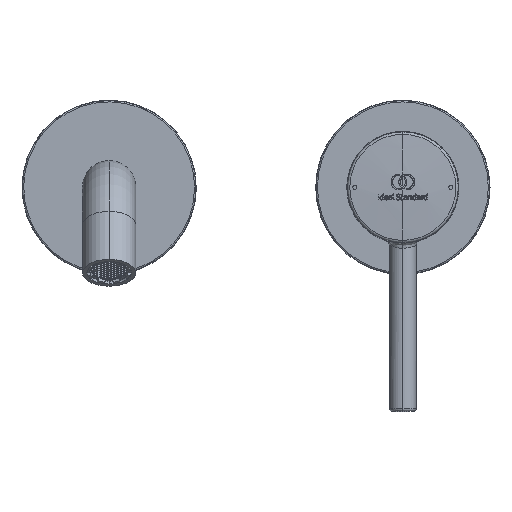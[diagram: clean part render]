
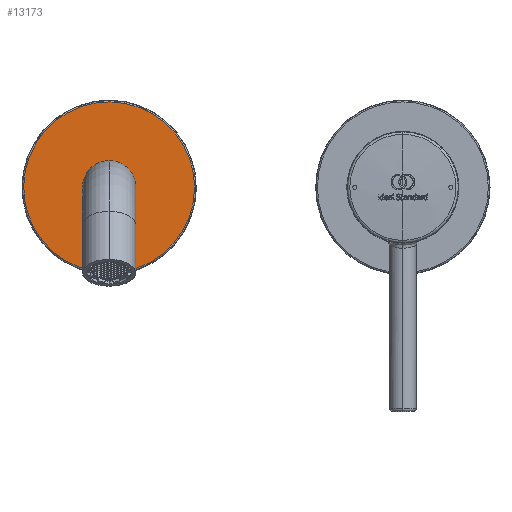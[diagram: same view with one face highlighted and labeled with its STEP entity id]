
A CAD part, front view. The second image highlights one B-rep face of the part: STEP entity #13173.
In plain terms, the highlighted planar face has unit normal (0, -1, 0).
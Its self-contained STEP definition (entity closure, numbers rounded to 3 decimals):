
#2023=CARTESIAN_POINT('',(-110.,-8.,0.));
#2024=DIRECTION('',(0.,-1.,0.));
#2025=DIRECTION('',(0.,0.,-1.));
#2026=AXIS2_PLACEMENT_3D('',#2023,#2024,#2025);
#3000=CARTESIAN_POINT('',(-110.,-8.,0.));
#3001=DIRECTION('',(0.,-1.,0.));
#3002=DIRECTION('',(0.,0.,1.));
#3003=AXIS2_PLACEMENT_3D('',#3000,#3001,#3002);
#3336=CARTESIAN_POINT('',(-110.,-8.,0.));
#3337=DIRECTION('',(0.,-1.,0.));
#3338=DIRECTION('',(0.009,0.,1.));
#3339=AXIS2_PLACEMENT_3D('',#3336,#3337,#3338);
#3341=CARTESIAN_POINT('',(-110.,-8.,0.));
#3342=DIRECTION('',(0.,-1.,0.));
#3343=DIRECTION('',(-0.009,0.,-1.));
#3344=AXIS2_PLACEMENT_3D('',#3341,#3342,#3343);
#9174=CARTESIAN_POINT('',(-109.716,-8.,32.007));
#9175=CARTESIAN_POINT('',(-110.284,-8.,-32.007));
#9176=VERTEX_POINT('',#9174);
#9177=VERTEX_POINT('',#9175);
#10099=CARTESIAN_POINT('',(-110.,-8.,-10.));
#10100=CARTESIAN_POINT('',(-110.,-8.,10.));
#10101=VERTEX_POINT('',#10099);
#10102=VERTEX_POINT('',#10100);
#13158=CARTESIAN_POINT('',(-110.,-8.,0.));
#13159=DIRECTION('',(0.,1.,0.));
#13160=DIRECTION('',(0.009,0.,1.));
#13161=AXIS2_PLACEMENT_3D('',#13158,#13159,#13160);
#13162=PLANE('',#13161);
#13164=ORIENTED_EDGE('',*,*,#13163,.F.);
#13166=ORIENTED_EDGE('',*,*,#13165,.F.);
#13167=EDGE_LOOP('',(#13164,#13166));
#13168=FACE_OUTER_BOUND('',#13167,.F.);
#13169=ORIENTED_EDGE('',*,*,#11830,.T.);
#13170=ORIENTED_EDGE('',*,*,#12540,.T.);
#13171=EDGE_LOOP('',(#13169,#13170));
#13172=FACE_BOUND('',#13171,.F.);
#2027=CIRCLE('',#2026,10.);
#3004=CIRCLE('',#3003,10.);
#3340=CIRCLE('',#3339,32.009);
#3345=CIRCLE('',#3344,32.009);
#11830=EDGE_CURVE('',#10101,#10102,#2027,.T.);
#12540=EDGE_CURVE('',#10102,#10101,#3004,.T.);
#13163=EDGE_CURVE('',#9176,#9177,#3340,.T.);
#13165=EDGE_CURVE('',#9177,#9176,#3345,.T.);
#13173=ADVANCED_FACE('',(#13168,#13172),#13162,.F.);
